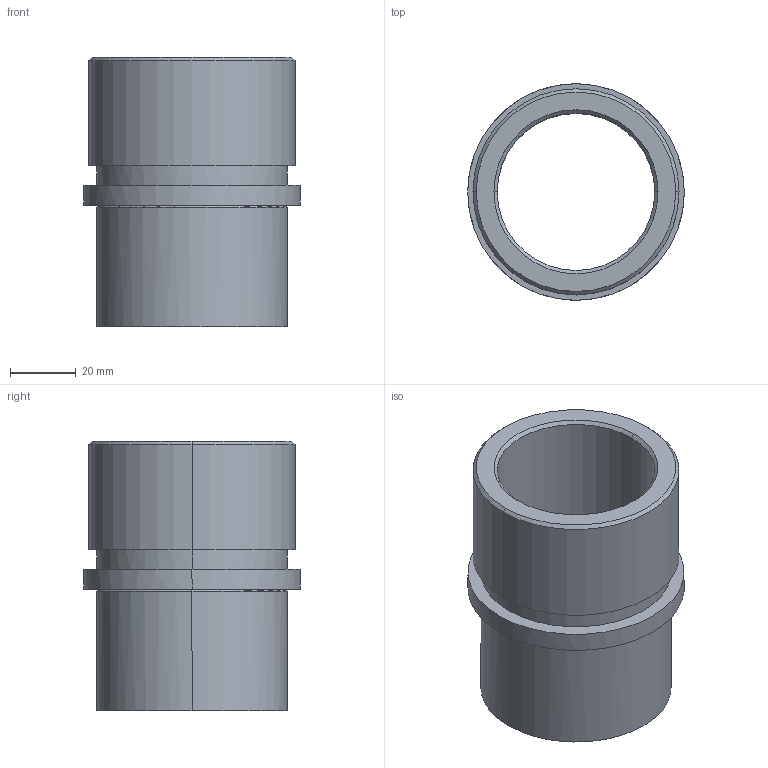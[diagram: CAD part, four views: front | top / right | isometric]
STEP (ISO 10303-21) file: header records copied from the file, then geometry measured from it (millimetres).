
FILE_DESCRIPTION(('CATIA V5 STEP Exchange'),'2;1');
FILE_NAME('C:\Users\Utente\Desktop\IO LAVORO\3D X SITO CF\X SITO\735\735-40.stp','2021-01-16T19:21:06+00:00',('none'),('none'),'CATIA Version 5 Release 20 GA (IN-10)','CATIA V5 STEP AP203','none');
FILE_SCHEMA(('CONFIG_CONTROL_DESIGN'));
Length unit declared in the file: millimetre
Products named in the file (1): 735-40
Assembly tree (1 placements, depth 2):
  735-40
    #58
Bounding box: 66 x 66 x 82 mm (x, y, z)
Volume: 87565.3 mm3; surface area: 32091.4 mm2
Topology: 1 solids, 1 shells, 25 faces, 50 edges, 30 vertices
Faces by surface type: cylinder 10, cone 6, plane 5, torus 4
Entity records: 851 total; most frequent: CARTESIAN_POINT 282, ORIENTED_EDGE 100, DIRECTION 96, AXIS2_PLACEMENT_3D 53, EDGE_CURVE 50, EDGE_LOOP 30, VERTEX_POINT 30, CIRCLE 26
